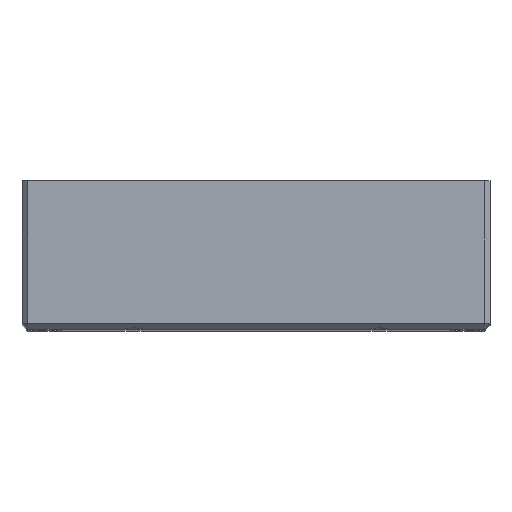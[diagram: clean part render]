
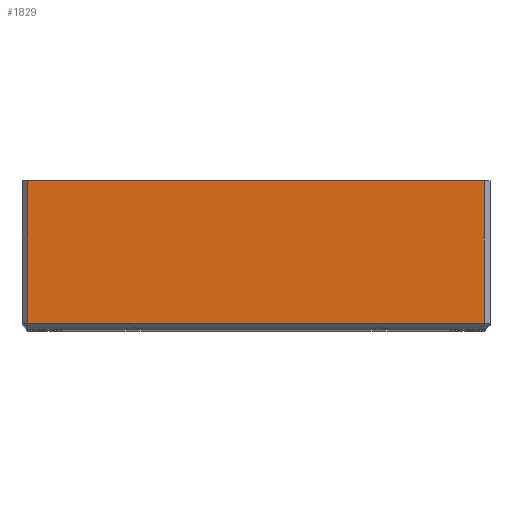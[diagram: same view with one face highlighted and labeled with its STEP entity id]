
A CAD part, top view. The second image highlights one B-rep face of the part: STEP entity #1829.
In plain terms, the highlighted planar face has unit normal (0, 0, 1).
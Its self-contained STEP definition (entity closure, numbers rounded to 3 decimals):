
#298=FACE_OUTER_BOUND('',#407,.T.);
#407=EDGE_LOOP('',(#1689,#1690,#1691,#1692));
#426=LINE('',#2674,#567);
#435=LINE('',#2707,#576);
#439=LINE('',#2714,#580);
#509=LINE('',#3100,#650);
#567=VECTOR('',#2090,10.);
#576=VECTOR('',#2103,10.);
#580=VECTOR('',#2109,10.);
#650=VECTOR('',#2503,10.);
#697=VERTEX_POINT('',#2634);
#705=VERTEX_POINT('',#2661);
#719=VERTEX_POINT('',#2705);
#720=VERTEX_POINT('',#2710);
#896=EDGE_CURVE('',#705,#697,#426,.T.);
#909=EDGE_CURVE('',#719,#705,#435,.T.);
#913=EDGE_CURVE('',#697,#720,#439,.T.);
#1095=EDGE_CURVE('',#720,#719,#509,.T.);
#1689=ORIENTED_EDGE('',*,*,#909,.F.);
#1690=ORIENTED_EDGE('',*,*,#1095,.F.);
#1691=ORIENTED_EDGE('',*,*,#913,.F.);
#1692=ORIENTED_EDGE('',*,*,#896,.F.);
#1739=PLANE('',#2057);
#1829=ADVANCED_FACE('',(#298),#1739,.T.);
#2057=AXIS2_PLACEMENT_3D('',#3204,#2615,#2616);
#2090=DIRECTION('',(-1.,0.,0.));
#2103=DIRECTION('',(0.,-1.,0.));
#2109=DIRECTION('',(0.,1.,0.));
#2503=DIRECTION('',(1.,0.,0.));
#2615=DIRECTION('center_axis',(0.,0.,1.));
#2616=DIRECTION('ref_axis',(1.,0.,0.));
#2634=CARTESIAN_POINT('',(-39.005,1.,99.695));
#2661=CARTESIAN_POINT('',(39.005,1.,99.695));
#2674=CARTESIAN_POINT('',(-20.003,1.,99.695));
#2705=CARTESIAN_POINT('',(39.005,25.4,99.695));
#2707=CARTESIAN_POINT('',(39.005,0.,99.695));
#2710=CARTESIAN_POINT('',(-39.005,25.4,99.695));
#2714=CARTESIAN_POINT('',(-39.005,0.,99.695));
#3100=CARTESIAN_POINT('',(-40.005,25.4,99.695));
#3204=CARTESIAN_POINT('Origin',(-40.005,0.,99.695));
